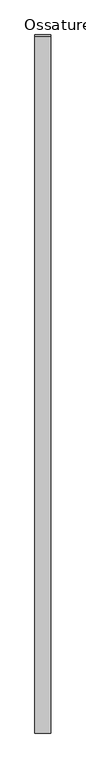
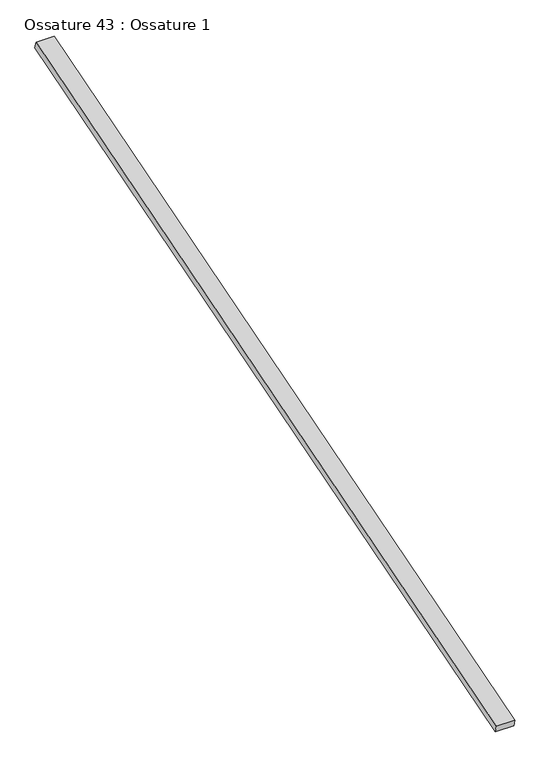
"""IFC4 building model written with IfcOpenShell, lengths in millimetres: beam geometry, Ossature 43 : Ossature 1."""

from ifc_helpers import new_model, si_unit, frame, origin, place, context, project, spatial, polyline, outline, extrude, source, transform, mapped, element, save


def ossature_43_ossature_1_cfe4ec7c(model_context):
    return source(origin(), model_context, "Body", "SweptSolid", [
        extrude(outline(polyline([(0.0, 0.0), (0.0, -4543.0299679), (-100.0, -4543.0299679), (-100.0, 0.0), (0.0, 0.0)])), frame((10541.0466393, -833.3913565, 8153.6336115), z_axis=(0.0, -0.28734788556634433, 0.9578262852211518), x_axis=(-1.0, 0.0, 0.0)), (0.0, 0.0, 1.0), 40.0),
    ])


if __name__ == "__main__":
    model = new_model("IFC4")
    model_context = context("Model", 3, world=origin())
    ifc_project = project(units=[si_unit("LENGTHUNIT", "METRE", prefix="MILLI")], contexts=[model_context])
    site = spatial("IfcSite", under=ifc_project)
    building = spatial("IfcBuilding", under=site)
    placement = place(None, origin())
    ossature_43_ossature_1_shape = ossature_43_ossature_1_cfe4ec7c(model_context)
    element("IfcBeam", 1, ObjectType="Ossature 43 : Ossature 1", at=placement, inside=building, context=model_context, shape_type="MappedRepresentation", body=[
        mapped(ossature_43_ossature_1_shape, transform((0.0, 0.0, 0.0), x_axis=(1.0, 0.0, 0.0), y_axis=(0.0, 1.0, 0.0), z_axis=(0.0, 0.0, 1.0))),
    ])
    save(model, "model.ifc")
